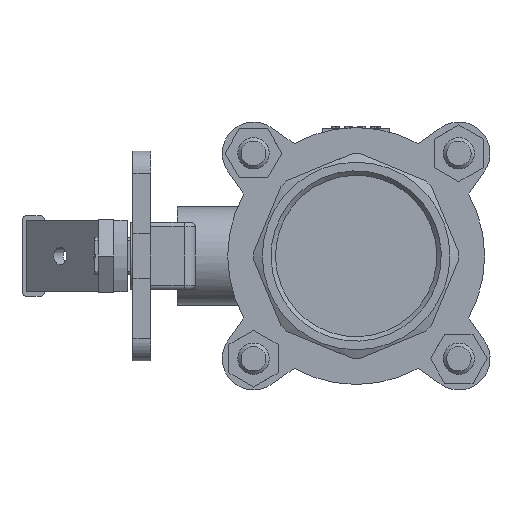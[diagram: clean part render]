
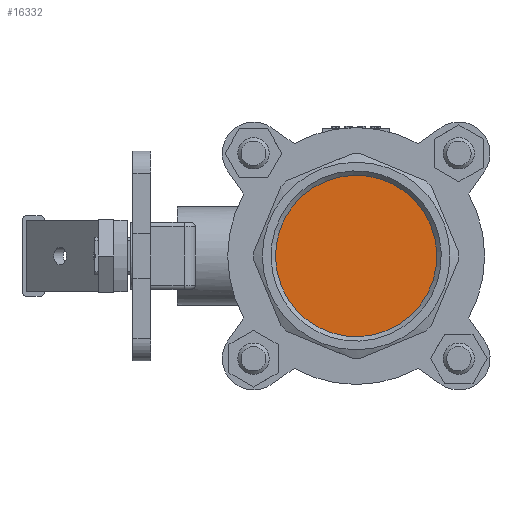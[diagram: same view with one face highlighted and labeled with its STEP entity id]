
A CAD part, left-side view. The second image highlights one B-rep face of the part: STEP entity #16332.
In plain terms, the highlighted planar face has unit normal (-1, 0, 0).
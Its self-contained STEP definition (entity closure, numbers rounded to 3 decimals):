
#14942=CARTESIAN_POINT('',(-55.0,13.82,33.365));
#14943=VERTEX_POINT('',#14942);
#14944=CARTESIAN_POINT('',(-55.0,0.,0.0));
#14945=DIRECTION('',(1.0,0.0,0.0));
#14946=DIRECTION('',(0.0,-0.383,-0.924));
#14947=AXIS2_PLACEMENT_3D('',#14944,#14945,#14946);
#14948=CIRCLE('',#14947,36.114);
#14949=EDGE_CURVE('',#14943,#14943,#14948,.T.);
#16324=CARTESIAN_POINT('',(-55.0,0.,0.));
#16325=DIRECTION('',(1.0,0.0,0.0));
#16326=DIRECTION('',(0.0,0.0,-1.0));
#16327=AXIS2_PLACEMENT_3D('',#16324,#16325,#16326);
#16328=PLANE('',#16327);
#16329=ORIENTED_EDGE('',*,*,#14949,.F.);
#16330=EDGE_LOOP('',(#16329));
#16331=FACE_OUTER_BOUND('',#16330,.T.);
#16332=ADVANCED_FACE('',(#16331),#16328,.F.);
